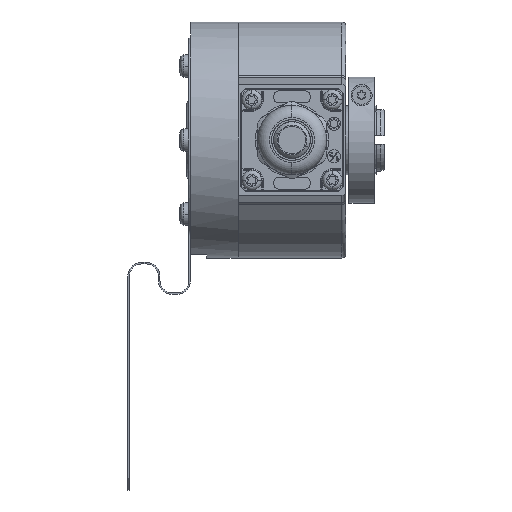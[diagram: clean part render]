
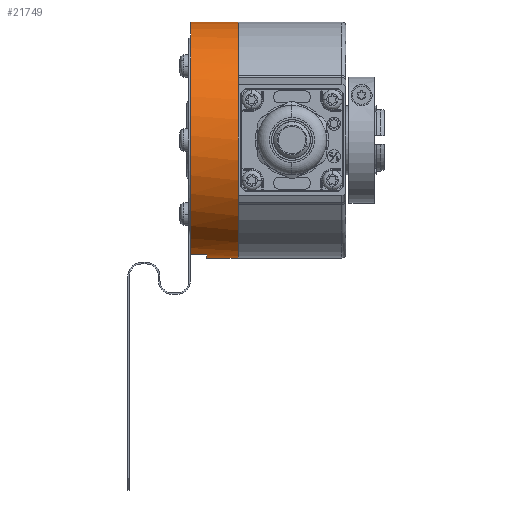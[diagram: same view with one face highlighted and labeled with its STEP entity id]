
A CAD part, front view. The second image highlights one B-rep face of the part: STEP entity #21749.
In plain terms, the highlighted cylindrical face has radius 29 mm (diameter 58 mm), a partial arc.
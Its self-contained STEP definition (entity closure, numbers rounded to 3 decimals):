
#729 = DIRECTION ( 'NONE',  ( 0., 0., -1. ) ) ;
#888 = CIRCLE ( 'NONE', #21021, 29. ) ;
#1006 = LINE ( 'NONE', #4789, #24938 ) ;
#1193 = EDGE_LOOP ( 'NONE', ( #7841, #27673, #6173, #26961, #12420, #16312 ) ) ;
#1523 = VECTOR ( 'NONE', #25960, 1000. ) ;
#2023 = AXIS2_PLACEMENT_3D ( 'NONE', #20866, #4216, #8535 ) ;
#3829 = DIRECTION ( 'NONE',  ( 1., 0., 0. ) ) ;
#3939 = FACE_OUTER_BOUND ( 'NONE', #1193, .T. ) ;
#4216 = DIRECTION ( 'NONE',  ( 1., 0., 0. ) ) ;
#4650 = CARTESIAN_POINT ( 'NONE',  ( -3.622, 25.423, 0. ) ) ;
#4789 = CARTESIAN_POINT ( 'NONE',  ( 8.068, 25.423, -29. ) ) ;
#5007 = EDGE_CURVE ( 'NONE', #22157, #6608, #24248, .T. ) ;
#5680 = CARTESIAN_POINT ( 'NONE',  ( 0.378, 25.423, 0. ) ) ;
#6173 = ORIENTED_EDGE ( 'NONE', *, *, #10709, .F. ) ;
#6601 = VERTEX_POINT ( 'NONE', #17446 ) ;
#6608 = VERTEX_POINT ( 'NONE', #13243 ) ;
#7841 = ORIENTED_EDGE ( 'NONE', *, *, #11794, .F. ) ;
#8535 = DIRECTION ( 'NONE',  ( 0., 0., -1. ) ) ;
#8736 = LINE ( 'NONE', #11250, #1523 ) ;
#10709 = EDGE_CURVE ( 'NONE', #22157, #10792, #8736, .T. ) ;
#10792 = VERTEX_POINT ( 'NONE', #20344 ) ;
#11250 = CARTESIAN_POINT ( 'NONE',  ( 8.068, 18.423, -28.142 ) ) ;
#11794 = EDGE_CURVE ( 'NONE', #18521, #21215, #16550, .T. ) ;
#12207 = CARTESIAN_POINT ( 'NONE',  ( 8.068, 25.423, 29. ) ) ;
#12312 = VECTOR ( 'NONE', #3829, 1000. ) ;
#12420 = ORIENTED_EDGE ( 'NONE', *, *, #26546, .T. ) ;
#13243 = CARTESIAN_POINT ( 'NONE',  ( 0.378, 25.423, -29. ) ) ;
#13303 = CARTESIAN_POINT ( 'NONE',  ( 8.068, 25.423, 0. ) ) ;
#14378 = DIRECTION ( 'NONE',  ( 1., 0., 0. ) ) ;
#14607 = DIRECTION ( 'NONE',  ( 1., 0., 0. ) ) ;
#14863 = AXIS2_PLACEMENT_3D ( 'NONE', #5680, #14378, #22786 ) ;
#16312 = ORIENTED_EDGE ( 'NONE', *, *, #17764, .F. ) ;
#16550 = LINE ( 'NONE', #27187, #12312 ) ;
#16751 = CIRCLE ( 'NONE', #25251, 29. ) ;
#17446 = CARTESIAN_POINT ( 'NONE',  ( 8.068, 25.423, -29. ) ) ;
#17764 = EDGE_CURVE ( 'NONE', #21215, #6601, #888, .T. ) ;
#18521 = VERTEX_POINT ( 'NONE', #18838 ) ;
#18838 = CARTESIAN_POINT ( 'NONE',  ( -3.622, 25.423, 29. ) ) ;
#19482 = DIRECTION ( 'NONE',  ( 1., 0., 0. ) ) ;
#20038 = DIRECTION ( 'NONE',  ( 1., 0., 0. ) ) ;
#20344 = CARTESIAN_POINT ( 'NONE',  ( -3.622, 18.423, -28.142 ) ) ;
#20866 = CARTESIAN_POINT ( 'NONE',  ( 8.068, 25.423, 0. ) ) ;
#21021 = AXIS2_PLACEMENT_3D ( 'NONE', #13303, #14607, #21717 ) ;
#21215 = VERTEX_POINT ( 'NONE', #12207 ) ;
#21641 = EDGE_CURVE ( 'NONE', #18521, #10792, #16751, .T. ) ;
#21717 = DIRECTION ( 'NONE',  ( 0., 0., -1. ) ) ;
#21749 = ADVANCED_FACE ( 'NONE', ( #3939 ), #23394, .T. ) ;
#22157 = VERTEX_POINT ( 'NONE', #24171 ) ;
#22786 = DIRECTION ( 'NONE',  ( 0., 0., 1. ) ) ;
#23394 = CYLINDRICAL_SURFACE ( 'NONE', #2023, 29. ) ;
#24171 = CARTESIAN_POINT ( 'NONE',  ( 0.378, 18.423, -28.142 ) ) ;
#24248 = CIRCLE ( 'NONE', #14863, 29. ) ;
#24938 = VECTOR ( 'NONE', #20038, 1000. ) ;
#25251 = AXIS2_PLACEMENT_3D ( 'NONE', #4650, #19482, #729 ) ;
#25960 = DIRECTION ( 'NONE',  ( -1., 0., 0. ) ) ;
#26546 = EDGE_CURVE ( 'NONE', #6608, #6601, #1006, .T. ) ;
#26961 = ORIENTED_EDGE ( 'NONE', *, *, #5007, .T. ) ;
#27187 = CARTESIAN_POINT ( 'NONE',  ( 8.068, 25.423, 29. ) ) ;
#27673 = ORIENTED_EDGE ( 'NONE', *, *, #21641, .T. ) ;
